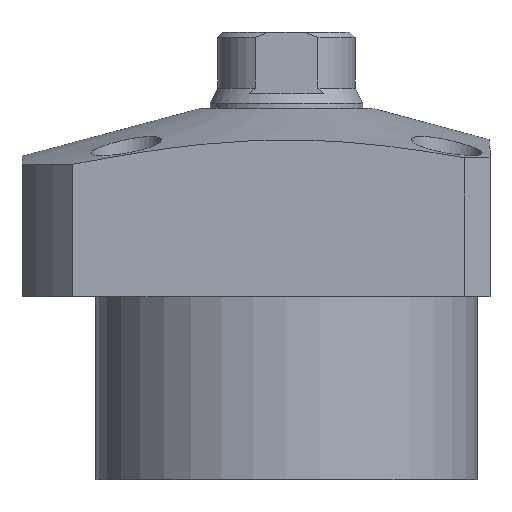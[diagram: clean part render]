
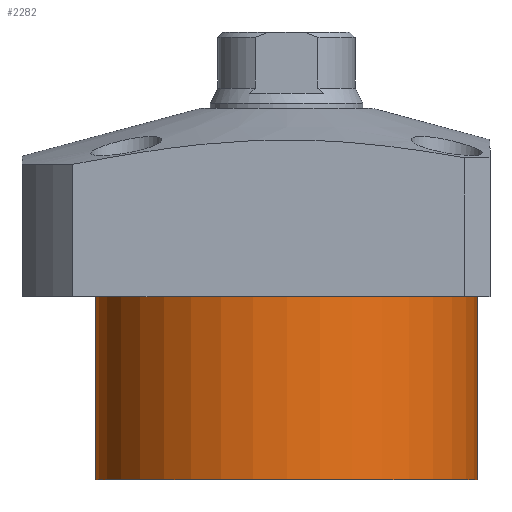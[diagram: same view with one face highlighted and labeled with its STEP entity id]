
A CAD part, front view. The second image highlights one B-rep face of the part: STEP entity #2282.
In plain terms, the highlighted cylindrical face has radius 37.5 mm (diameter 75 mm), a partial arc.
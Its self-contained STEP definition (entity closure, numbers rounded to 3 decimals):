
#46 = CARTESIAN_POINT ( 'NONE',  ( 37.5, 0., -54.5 ) ) ;
#151 = CARTESIAN_POINT ( 'NONE',  ( 0., 0., -54.5 ) ) ;
#261 = EDGE_CURVE ( 'NONE', #1069, #362, #1286, .T. ) ;
#344 = LINE ( 'NONE', #46, #666 ) ;
#362 = VERTEX_POINT ( 'NONE', #2427 ) ;
#374 = CIRCLE ( 'NONE', #440, 37.5 ) ;
#389 = VERTEX_POINT ( 'NONE', #2220 ) ;
#440 = AXIS2_PLACEMENT_3D ( 'NONE', #2127, #1167, #1951 ) ;
#466 = CARTESIAN_POINT ( 'NONE',  ( -37.5, 0., -54.5 ) ) ;
#646 = DIRECTION ( 'NONE',  ( 0., 0., 1. ) ) ;
#666 = VECTOR ( 'NONE', #646, 1000. ) ;
#743 = ORIENTED_EDGE ( 'NONE', *, *, #2101, .T. ) ;
#965 = ORIENTED_EDGE ( 'NONE', *, *, #261, .F. ) ;
#970 = DIRECTION ( 'NONE',  ( 1., 0., 0. ) ) ;
#993 = EDGE_LOOP ( 'NONE', ( #965, #1591, #1490, #743 ) ) ;
#997 = CARTESIAN_POINT ( 'NONE',  ( -37.5, 0., -54.5 ) ) ;
#1069 = VERTEX_POINT ( 'NONE', #466 ) ;
#1167 = DIRECTION ( 'NONE',  ( 0., 0., -1. ) ) ;
#1168 = CYLINDRICAL_SURFACE ( 'NONE', #1387, 37.5 ) ;
#1263 = VECTOR ( 'NONE', #1792, 1000. ) ;
#1286 = LINE ( 'NONE', #997, #1263 ) ;
#1292 = CIRCLE ( 'NONE', #2296, 37.5 ) ;
#1387 = AXIS2_PLACEMENT_3D ( 'NONE', #151, #1921, #970 ) ;
#1421 = EDGE_CURVE ( 'NONE', #2413, #389, #344, .T. ) ;
#1490 = ORIENTED_EDGE ( 'NONE', *, *, #1421, .T. ) ;
#1587 = CARTESIAN_POINT ( 'NONE',  ( 37.5, 0., -54.5 ) ) ;
#1591 = ORIENTED_EDGE ( 'NONE', *, *, #1837, .F. ) ;
#1717 = CARTESIAN_POINT ( 'NONE',  ( 0., 0., -18.5 ) ) ;
#1792 = DIRECTION ( 'NONE',  ( 0., 0., 1. ) ) ;
#1837 = EDGE_CURVE ( 'NONE', #2413, #1069, #374, .T. ) ;
#1876 = DIRECTION ( 'NONE',  ( 0., 0., -1. ) ) ;
#1908 = DIRECTION ( 'NONE',  ( 1., 0., 0. ) ) ;
#1921 = DIRECTION ( 'NONE',  ( 0., 0., 1. ) ) ;
#1951 = DIRECTION ( 'NONE',  ( -1., 0., 0. ) ) ;
#2101 = EDGE_CURVE ( 'NONE', #389, #362, #1292, .T. ) ;
#2106 = FACE_OUTER_BOUND ( 'NONE', #993, .T. ) ;
#2127 = CARTESIAN_POINT ( 'NONE',  ( 0., 0., -54.5 ) ) ;
#2220 = CARTESIAN_POINT ( 'NONE',  ( 37.5, 0., -18.5 ) ) ;
#2282 = ADVANCED_FACE ( 'NONE', ( #2106 ), #1168, .T. ) ;
#2296 = AXIS2_PLACEMENT_3D ( 'NONE', #1717, #1876, #1908 ) ;
#2413 = VERTEX_POINT ( 'NONE', #1587 ) ;
#2427 = CARTESIAN_POINT ( 'NONE',  ( -37.5, 0., -18.5 ) ) ;
